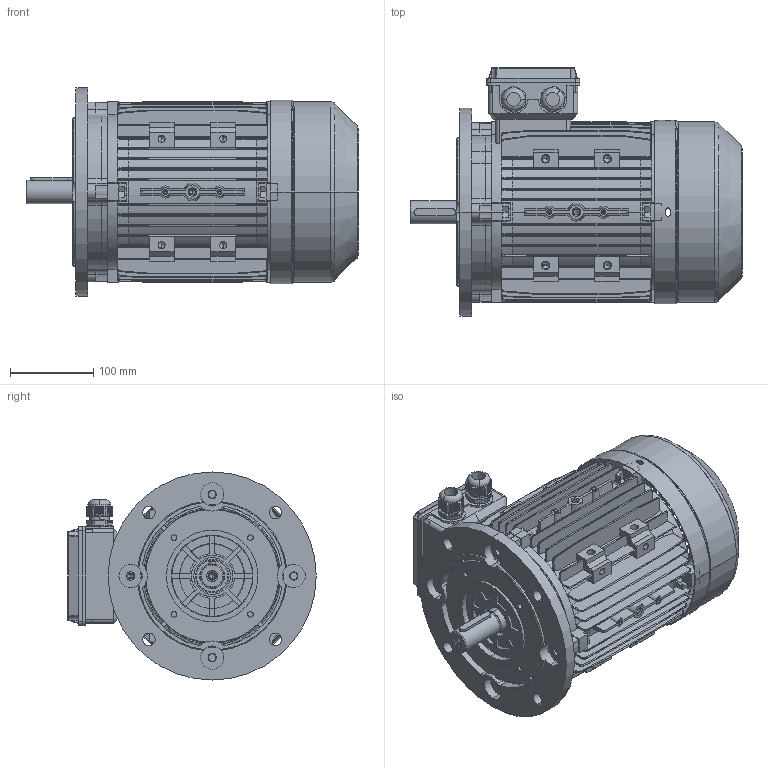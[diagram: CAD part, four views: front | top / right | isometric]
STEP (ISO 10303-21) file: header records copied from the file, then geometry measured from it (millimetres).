
FILE_DESCRIPTION (( 'STEP AP203' ), '1' );
FILE_NAME ('ME112M-4 B14.STEP', '2014-08-18T11:23:23', ( '' ), ( '' ), 'SwSTEP 2.0', 'SolidWorks 2010', '' );
FILE_SCHEMA (( 'CONFIG_CONTROL_DESIGN' ));
Length unit declared in the file: millimetre
Products named in the file (9): M25 cable gland; M112-Shaft drive end; MS132諉盄碟裔; ME112M-4 B14; M112儂褲; M112瑞欶_105; M112傷裔B5; MS132諉盄碟釱_2Holes; M112傷裔B14 
Assembly tree (9 placements, depth 2):
  ME112M-4 B14
    MS132諉盄碟釱_2Holes
    M112傷裔B14 
    M112瑞欶_105
    M25 cable gland  x2
    MS132諉盄碟裔
    M112儂褲
    M112-Shaft drive end
    M112傷裔B5
Bounding box: 399 x 298.5 x 250 mm (x, y, z)
Volume: 2215830.6 mm3; surface area: 1147242.5 mm2
Topology: 11 solids, 11 shells, 3599 faces, 9672 edges, 6099 vertices
Faces by surface type: plane 1697, cylinder 1053, bspline 452, cone 220, sphere 102, torus 75
Entity records: 157433 total; most frequent: CARTESIAN_POINT 77554, ORIENTED_EDGE 17250, DIRECTION 15109, EDGE_CURVE 8625, VERTEX_POINT 5465, AXIS2_PLACEMENT_3D 5167, LINE 4775, VECTOR 4775
